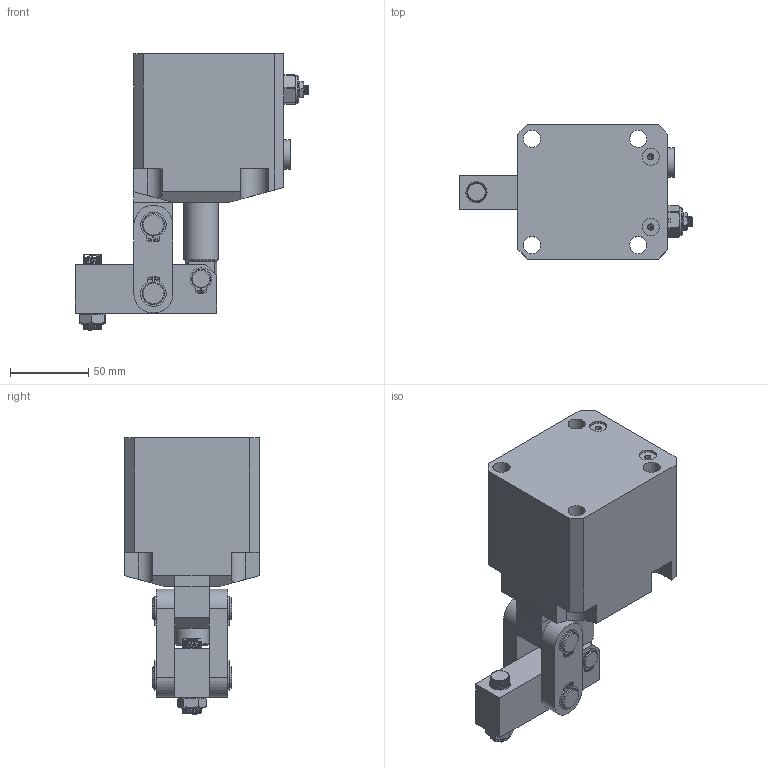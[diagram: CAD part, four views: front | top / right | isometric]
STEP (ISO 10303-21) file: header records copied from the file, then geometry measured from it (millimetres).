
FILE_DESCRIPTION(/* description */ ('STEP AP214'),/* implementation_level */ '2;1');
FILE_NAME(/* name */ 'D:\Vault_2016\Projekty\Clamptek\Hydraulic\CBLU\CBLU-55\STEP\CBLU-55C.stp',/* time_stamp */ '2021-05-06T12:50:06+02:00',/* author */ ('user'),/* organization */ (''),/* preprocessor_version */ 'ST-DEVELOPER v18.1',/* originating_system */ 'Autodesk Inventor 2021',/* authorisation */ '');
FILE_SCHEMA (('AUTOMOTIVE_DESIGN { 1 0 10303 214 3 1 1 }'));
Products named in the file (13): CBLU-55C; CBLU-55C±¾Ìå_1_1; duanxiao; huosaigan_2_1; yabi; liangan; changxiao; kahuang; kahuang01; luogan; luomu; ÄÚÁù½Ç¶ÂÍ·×
îÐÂ1-4_1; CZL20µ÷ËÙ·§_1_1_1
Assembly tree (18 placements, depth 2):
  CBLU-55C
    CBLU-55C±¾Ìå_1_1
    changxiao  x2
    duanxiao
    huosaigan_2_1
    liangan  x2
    yabi
    kahuang  x4
    kahuang01  x2
    luogan
    luomu
    ÄÚÁù½Ç¶ÂÍ·×
îÐÂ1-4_1
    CZL20µ÷ËÙ·§_1_1_1
Bounding box: 149.4 x 86 x 176.97 mm (x, y, z)
Volume: 692881.1 mm3; surface area: 133899.3 mm2
Topology: 19 solids, 173 shells, 681 faces, 1969 edges, 1476 vertices
Faces by surface type: cylinder 362, plane 194, bspline 79, cone 46
Full cylindrical faces by diameter (mm): 1.479 x4, 1.725 x8, 2.5 x3, 4 x3, 5.3 x1, 6 x14, 7.5 x1, 8 x1, 11 x27, 11.5 x6, 11.9 x1, 12 x6, 13 x5, 14 x12, 16.8 x1, 18 x1, 19 x1, 22 x2, 33.825 x1, 34.766 x1, 55 x2
Entity records: 130710 total; most frequent: CARTESIAN_POINT 115939, ORIENTED_EDGE 2883, DIRECTION 2223, EDGE_CURVE 1742, VERTEX_POINT 1330, B_SPLINE_CURVE_WITH_KNOTS 803, AXIS2_PLACEMENT_3D 796, EDGE_LOOP 660
